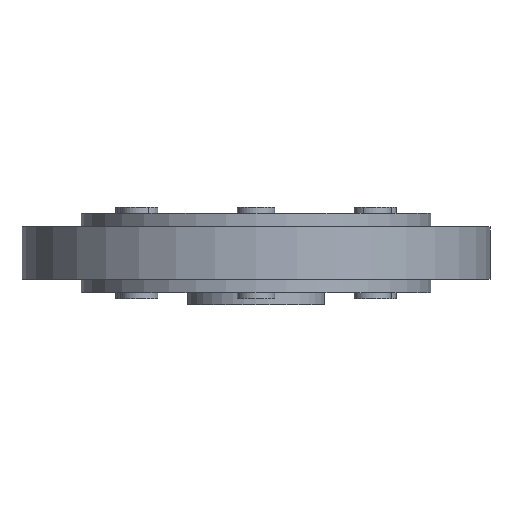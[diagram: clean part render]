
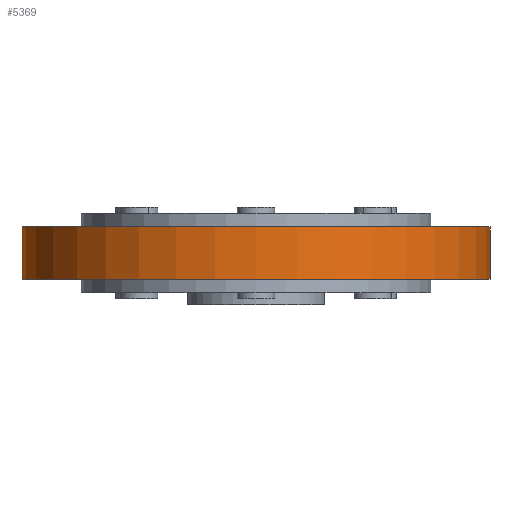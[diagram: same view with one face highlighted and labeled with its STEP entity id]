
A CAD part, front view. The second image highlights one B-rep face of the part: STEP entity #5369.
In plain terms, the highlighted cylindrical face has radius 37.5 mm (diameter 75 mm), a partial arc.
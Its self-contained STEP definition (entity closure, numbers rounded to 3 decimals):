
#77 = CIRCLE ( 'NONE', #8048, 37.5 ) ;
#1045 = CARTESIAN_POINT ( 'NONE',  ( 37.5, 0., 4.2 ) ) ;
#1111 = CIRCLE ( 'NONE', #4984, 37.5 ) ;
#2445 = DIRECTION ( 'NONE',  ( 1., 0., 0. ) ) ;
#2493 = EDGE_CURVE ( 'NONE', #9209, #12569, #13982, .T. ) ;
#3178 = VERTEX_POINT ( 'NONE', #8079 ) ;
#3739 = DIRECTION ( 'NONE',  ( 0., 0., 1. ) ) ;
#4984 = AXIS2_PLACEMENT_3D ( 'NONE', #13444, #3739, #2445 ) ;
#5288 = DIRECTION ( 'NONE',  ( 0., 0., 1. ) ) ;
#5369 = ADVANCED_FACE ( 'NONE', ( #11843 ), #8427, .T. ) ;
#5519 = EDGE_LOOP ( 'NONE', ( #11077, #9809, #12921, #10726 ) ) ;
#6361 = DIRECTION ( 'NONE',  ( 0., 0., -1. ) ) ;
#7062 = CARTESIAN_POINT ( 'NONE',  ( 37.5, 0., 4.2 ) ) ;
#7258 = VECTOR ( 'NONE', #8597, 1000. ) ;
#7499 = DIRECTION ( 'NONE',  ( 1., 0., 0. ) ) ;
#7962 = VECTOR ( 'NONE', #11692, 1000. ) ;
#8048 = AXIS2_PLACEMENT_3D ( 'NONE', #13926, #5288, #7499 ) ;
#8079 = CARTESIAN_POINT ( 'NONE',  ( 37.5, 0., -4.2 ) ) ;
#8427 = CYLINDRICAL_SURFACE ( 'NONE', #10233, 37.5 ) ;
#8597 = DIRECTION ( 'NONE',  ( 0., 0., -1. ) ) ;
#8724 = VERTEX_POINT ( 'NONE', #1045 ) ;
#9209 = VERTEX_POINT ( 'NONE', #13279 ) ;
#9612 = EDGE_CURVE ( 'NONE', #9209, #8724, #77, .T. ) ;
#9809 = ORIENTED_EDGE ( 'NONE', *, *, #9612, .F. ) ;
#10233 = AXIS2_PLACEMENT_3D ( 'NONE', #13988, #6361, #12774 ) ;
#10726 = ORIENTED_EDGE ( 'NONE', *, *, #13591, .T. ) ;
#11077 = ORIENTED_EDGE ( 'NONE', *, *, #13311, .F. ) ;
#11621 = CARTESIAN_POINT ( 'NONE',  ( -37.5, 0., 4.2 ) ) ;
#11692 = DIRECTION ( 'NONE',  ( 0., 0., -1. ) ) ;
#11843 = FACE_OUTER_BOUND ( 'NONE', #5519, .T. ) ;
#12569 = VERTEX_POINT ( 'NONE', #13733 ) ;
#12774 = DIRECTION ( 'NONE',  ( -1., 0., 0. ) ) ;
#12921 = ORIENTED_EDGE ( 'NONE', *, *, #2493, .T. ) ;
#13279 = CARTESIAN_POINT ( 'NONE',  ( -37.5, 0., 4.2 ) ) ;
#13311 = EDGE_CURVE ( 'NONE', #8724, #3178, #13961, .T. ) ;
#13444 = CARTESIAN_POINT ( 'NONE',  ( 0., 0., -4.2 ) ) ;
#13591 = EDGE_CURVE ( 'NONE', #12569, #3178, #1111, .T. ) ;
#13733 = CARTESIAN_POINT ( 'NONE',  ( -37.5, 0., -4.2 ) ) ;
#13926 = CARTESIAN_POINT ( 'NONE',  ( 0., 0., 4.2 ) ) ;
#13961 = LINE ( 'NONE', #7062, #7258 ) ;
#13982 = LINE ( 'NONE', #11621, #7962 ) ;
#13988 = CARTESIAN_POINT ( 'NONE',  ( 0., 0., 4.2 ) ) ;
